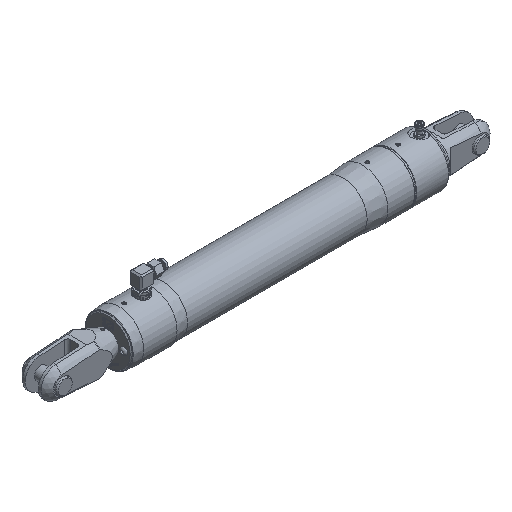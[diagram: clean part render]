
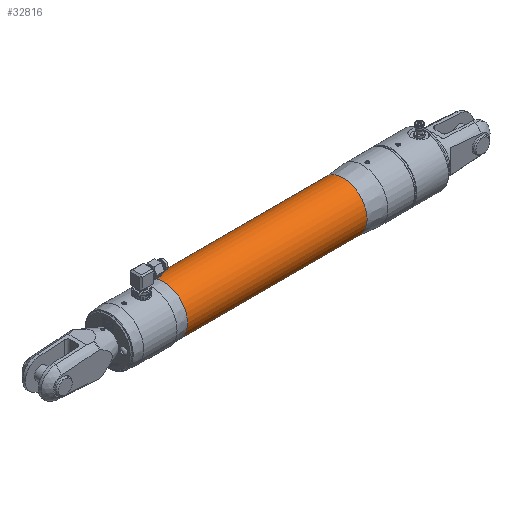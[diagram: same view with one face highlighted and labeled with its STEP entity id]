
A CAD part, isometric view. The second image highlights one B-rep face of the part: STEP entity #32816.
In plain terms, the highlighted cylindrical face has radius 35.6 mm (diameter 71.2 mm), a full revolution.
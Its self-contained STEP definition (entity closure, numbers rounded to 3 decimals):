
#3446=FACE_OUTER_BOUND('',#5235,.T.);
#5235=EDGE_LOOP('',(#22218,#22219,#22220,#22221,#22222,#22223));
#7187=LINE('',#43879,#10142);
#10142=VECTOR('',#37028,35.6);
#13049=CIRCLE('',#34788,35.6);
#13050=CIRCLE('',#34789,35.6);
#13052=CIRCLE('',#34792,35.6);
#13053=CIRCLE('',#34793,35.6);
#13638=VERTEX_POINT('',#43871);
#13639=VERTEX_POINT('',#43873);
#13640=VERTEX_POINT('',#43878);
#13641=VERTEX_POINT('',#43880);
#16973=EDGE_CURVE('',#13639,#13638,#13049,.T.);
#16974=EDGE_CURVE('',#13638,#13639,#13050,.T.);
#16976=EDGE_CURVE('',#13638,#13640,#7187,.T.);
#16977=EDGE_CURVE('',#13641,#13640,#13052,.T.);
#16978=EDGE_CURVE('',#13640,#13641,#13053,.T.);
#22218=ORIENTED_EDGE('',*,*,#16973,.T.);
#22219=ORIENTED_EDGE('',*,*,#16976,.T.);
#22220=ORIENTED_EDGE('',*,*,#16977,.F.);
#22221=ORIENTED_EDGE('',*,*,#16978,.F.);
#22222=ORIENTED_EDGE('',*,*,#16976,.F.);
#22223=ORIENTED_EDGE('',*,*,#16974,.T.);
#30799=CYLINDRICAL_SURFACE('',#34791,35.6);
#32816=ADVANCED_FACE('',(#3446),#30799,.T.);
#34788=AXIS2_PLACEMENT_3D('',#43874,#37020,#37021);
#34789=AXIS2_PLACEMENT_3D('',#43875,#37022,#37023);
#34791=AXIS2_PLACEMENT_3D('',#43877,#37026,#37027);
#34792=AXIS2_PLACEMENT_3D('',#43881,#37029,#37030);
#34793=AXIS2_PLACEMENT_3D('',#43882,#37031,#37032);
#37020=DIRECTION('center_axis',(1.,0.,0.));
#37021=DIRECTION('ref_axis',(0.,0.,-1.));
#37022=DIRECTION('center_axis',(1.,0.,0.));
#37023=DIRECTION('ref_axis',(0.,0.,-1.));
#37026=DIRECTION('center_axis',(1.,0.,0.));
#37027=DIRECTION('ref_axis',(0.,0.,
1.));
#37028=DIRECTION('',(1.,0.,0.));
#37029=DIRECTION('center_axis',(1.,0.,0.));
#37030=DIRECTION('ref_axis',(0.,0.,-1.));
#37031=DIRECTION('center_axis',(1.,0.,0.));
#37032=DIRECTION('ref_axis',(0.,0.,-1.));
#43871=CARTESIAN_POINT('',(-326.734,0.,-35.6));
#43873=CARTESIAN_POINT('',(-326.734,0.,35.6));
#43874=CARTESIAN_POINT('Origin',(-326.734,0.,
0.));
#43875=CARTESIAN_POINT('Origin',(-326.734,0.,
0.));
#43877=CARTESIAN_POINT('Origin',(-192.822,0.,
0.));
#43878=CARTESIAN_POINT('',(-58.911,0.,-35.6));
#43879=CARTESIAN_POINT('',(-192.822,0.,-35.6));
#43880=CARTESIAN_POINT('',(-58.911,0.,35.6));
#43881=CARTESIAN_POINT('Origin',(-58.911,0.,
0.));
#43882=CARTESIAN_POINT('Origin',(-58.911,0.,
0.));
